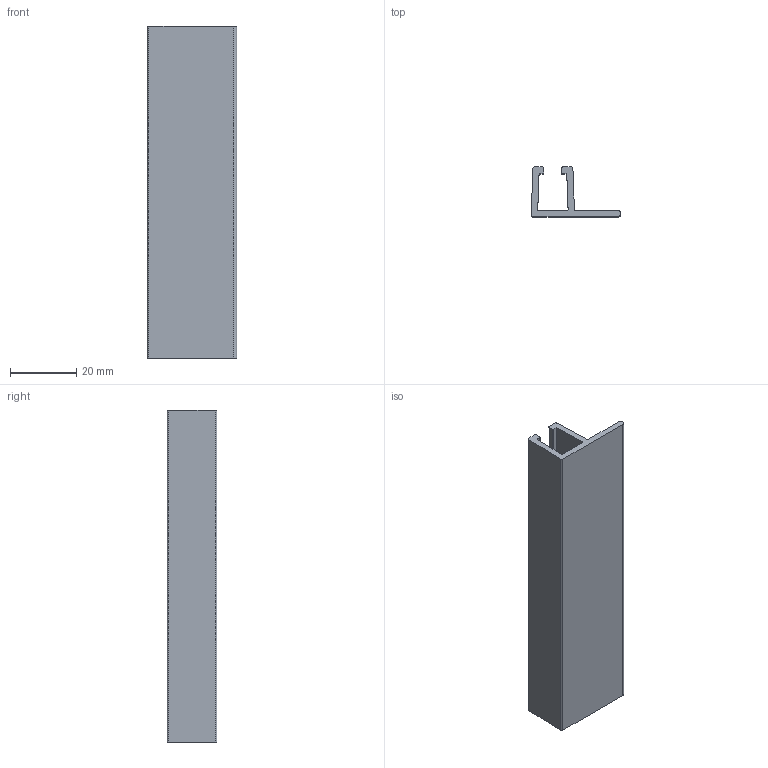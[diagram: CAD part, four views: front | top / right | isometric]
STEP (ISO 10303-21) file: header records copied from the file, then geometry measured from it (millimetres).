
FILE_DESCRIPTION(/* description */ ('BRACKET F-PROFILE FOR 300-6031'),/* implementation_level */ '2;1');
FILE_NAME(/* name */ '\\carryline.intra\privat\users\mathias\Desktop\Tillfälliga filer\300-3067.stp',/* time_stamp */ '2018-11-30T09:54:23+01:00',/* author */ ('MD'),/* organization */ ('CARRYLINE'),/* preprocessor_version */ 'ST-DEVELOPER v17',/* originating_system */ 'Autodesk Inventor 2018',/* authorisation */ '');
FILE_SCHEMA (('AUTOMOTIVE_DESIGN { 1 0 10303 214 3 1 1 }'));
Length unit declared in the file: millimetre
Products named in the file (1): 300-3067
Bounding box: 26.98 x 15 x 100 mm (x, y, z)
Volume: 10645.1 mm3; surface area: 11565.5 mm2
Topology: 1 solids, 1 shells, 27 faces, 75 edges, 50 vertices
Faces by surface type: plane 15, cylinder 12
Entity records: 912 total; most frequent: DIRECTION 155, CARTESIAN_POINT 153, ORIENTED_EDGE 150, EDGE_CURVE 75, AXIS2_PLACEMENT_3D 52, LINE 51, VECTOR 51, VERTEX_POINT 50
